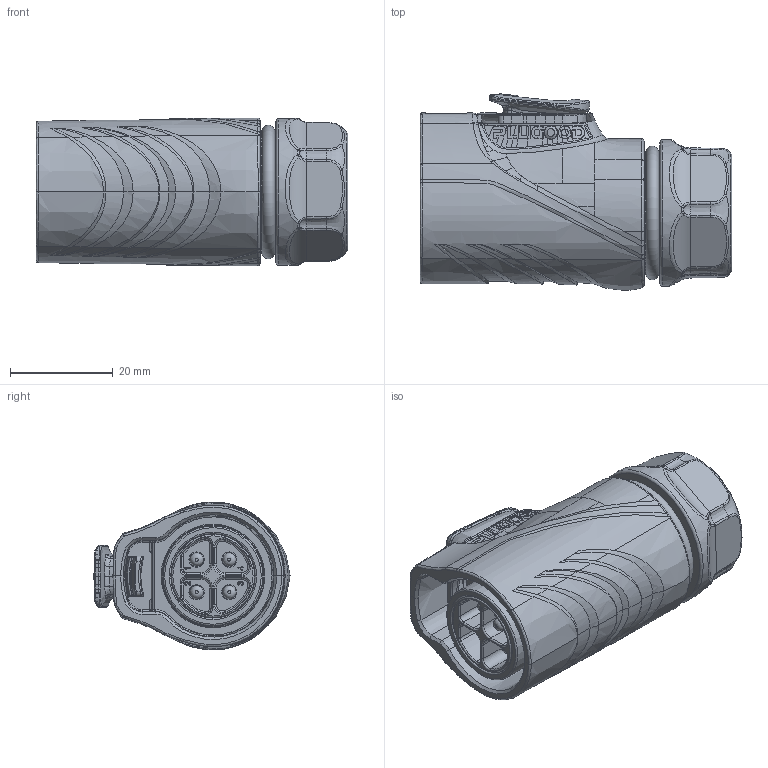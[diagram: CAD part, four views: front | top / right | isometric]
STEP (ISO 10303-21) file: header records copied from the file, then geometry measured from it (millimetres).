
FILE_DESCRIPTION (( 'STEP AP203' ), '1' );
FILE_NAME ('PLG20 4郋坶蹟佪脣芛.STEP', '2025-03-20T05:58:16', ( '' ), ( '' ), 'SwSTEP 2.0', 'SolidWorks 2024', '' );
FILE_SCHEMA (( 'CONFIG_CONTROL_DESIGN' ));
Products named in the file (1): PLG20 4芯锁螺丝插头
Bounding box: 60.7 x 38.21 x 28.77 mm (x, y, z)
Volume: 35231.6 mm3; surface area: 17767 mm2
Topology: 2 solids, 6 shells, 1246 faces, 3292 edges, 2075 vertices
Faces by surface type: bspline 680, plane 308, cylinder 141, torus 71, cone 36, sphere 10
Full cylindrical faces by diameter (mm): 1.2 x1, 1.6 x1, 2.5 x1, 2.6 x4, 2.65 x1, 3 x4, 16.2 x1, 16.8 x1, 17.6 x1, 18.5 x2, 18.6 x2, 19.4 x2, 22.033 x2, 28.6 x1
Entity records: 89783 total; most frequent: CARTESIAN_POINT 65268, ORIENTED_EDGE 6386, EDGE_CURVE 3193, DIRECTION 2938, VERTEX_POINT 2045, B_SPLINE_CURVE_WITH_KNOTS 1778, EDGE_LOOP 1336, FACE_OUTER_BOUND 1290
